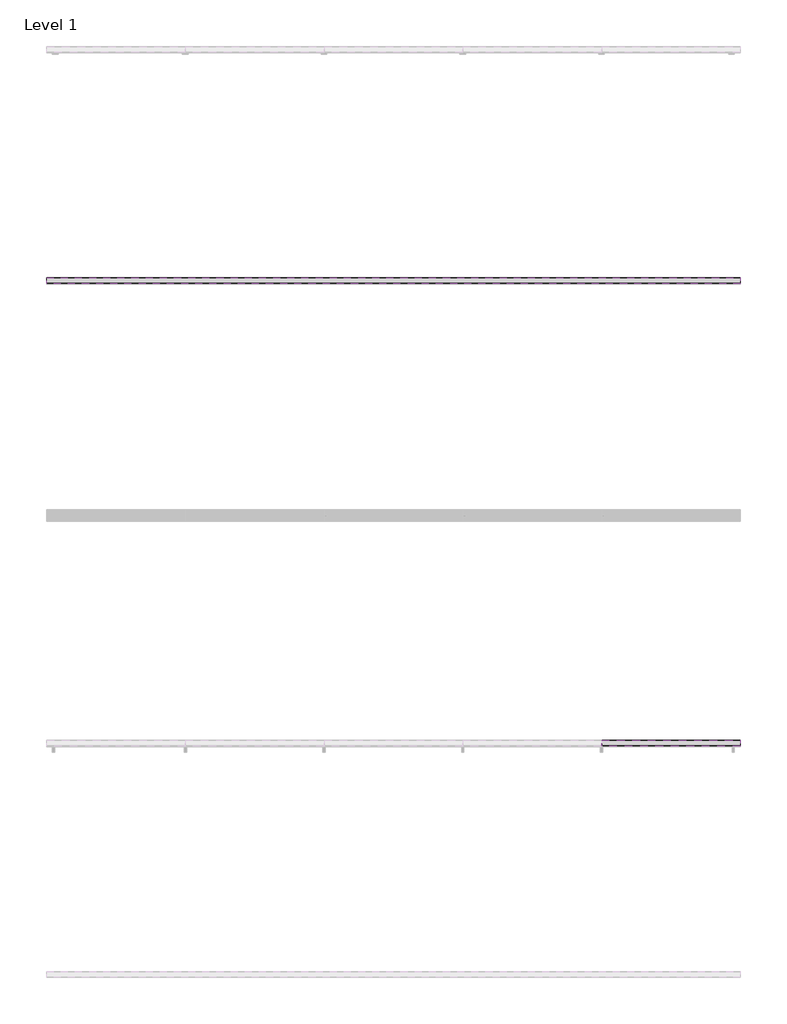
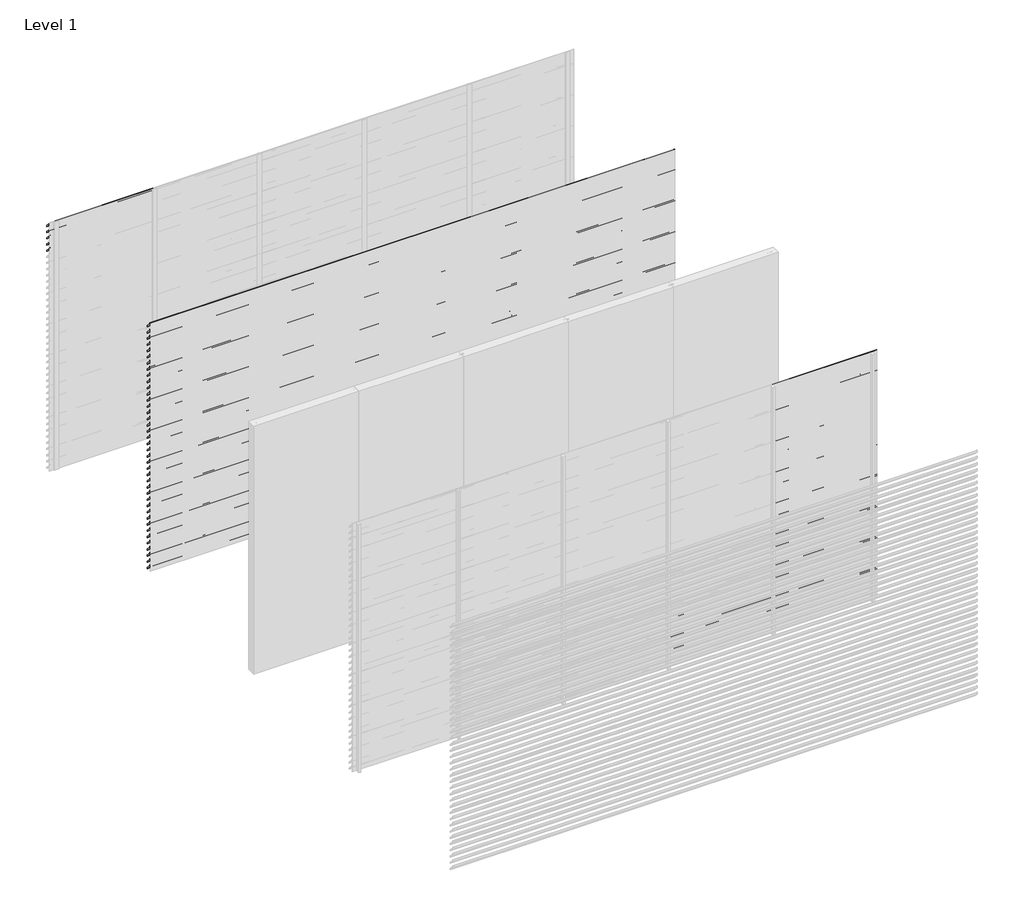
# One storey, part 9 of 11: 93 proxies.
"""IFC4 building model written with IfcOpenShell, lengths in millimetres."""

from ifc_helpers import new_model, si_unit, frame, origin, place, context, project, spatial, polyline, outline, extrude, element, save

model = new_model("IFC4")

# Units and contexts
model_context = context("Model", 3, world=origin())
ifc_project = project(units=[si_unit("LENGTHUNIT", "METRE", prefix="MILLI")], contexts=[model_context])

# Site, building, storey
site = spatial("IfcSite", under=ifc_project)
building = spatial("IfcBuilding", under=site)
storey = spatial("IfcBuildingStorey", under=building, Name="Level 1", Elevation=0.0)

# Proxies
placement = place(None, origin())
element("IfcBuildingElementProxy", 1, Name="Wall Sweeps", at=placement, inside=storey, context=model_context, shape_type="SweptSolid", body=[
    extrude(outline(polyline([(5.0, 3000.0), (5.0, 2990.7409854), (54.0, 2940.0), (54.0, 2924.0), (3.0, 2976.812046), (3.0, 3000.0), (5.0, 3000.0)])), frame((0.0, 0.0, 0.0), z_axis=(1.0, 0.0, 0.0), x_axis=(0.0, 1.0, 0.0)), (0.0, 0.0, 1.0), 1200.0),
])
element("IfcBuildingElementProxy", 2, Name="Wall Sweeps", at=placement, inside=storey, context=model_context, shape_type="SweptSolid", body=[
    extrude(outline(polyline([(5.0, 2925.0), (5.0, 2915.7409854), (54.0, 2865.0), (54.0, 2849.0), (3.0, 2901.812046), (3.0, 2925.0), (5.0, 2925.0)])), frame((0.0, 0.0, 0.0), z_axis=(1.0, 0.0, 0.0), x_axis=(0.0, 1.0, 0.0)), (0.0, 0.0, 1.0), 1200.0),
])
element("IfcBuildingElementProxy", 3, Name="Wall Sweeps", at=placement, inside=storey, context=model_context, shape_type="SweptSolid", body=[
    extrude(outline(polyline([(5.0, 2850.0), (5.0, 2840.7409854), (54.0, 2790.0), (54.0, 2774.0), (3.0, 2826.812046), (3.0, 2850.0), (5.0, 2850.0)])), frame((0.0, 0.0, 0.0), z_axis=(1.0, 0.0, 0.0), x_axis=(0.0, 1.0, 0.0)), (0.0, 0.0, 1.0), 1200.0),
])
element("IfcBuildingElementProxy", 4, Name="Wall Sweeps", at=placement, inside=storey, context=model_context, shape_type="SweptSolid", body=[
    extrude(outline(polyline([(5.0, 2775.0), (5.0, 2765.7409854), (54.0, 2715.0), (54.0, 2699.0), (3.0, 2751.812046), (3.0, 2775.0), (5.0, 2775.0)])), frame((0.0, 0.0, 0.0), z_axis=(1.0, 0.0, 0.0), x_axis=(0.0, 1.0, 0.0)), (0.0, 0.0, 1.0), 1200.0),
])
element("IfcBuildingElementProxy", 5, Name="Wall Sweeps", at=placement, inside=storey, context=model_context, shape_type="SweptSolid", body=[
    extrude(outline(polyline([(5.0, 2700.0), (5.0, 2690.7409854), (54.0, 2640.0), (54.0, 2624.0), (3.0, 2676.812046), (3.0, 2700.0), (5.0, 2700.0)])), frame((0.0, 0.0, 0.0), z_axis=(1.0, 0.0, 0.0), x_axis=(0.0, 1.0, 0.0)), (0.0, 0.0, 1.0), 1200.0),
])
element("IfcBuildingElementProxy", 6, Name="Wall Sweeps", at=placement, inside=storey, context=model_context, shape_type="SweptSolid", body=[
    extrude(outline(polyline([(-1995.0, 3000.0), (-1995.0, 2990.7409854), (-1946.0, 2940.0), (-1946.0, 2924.0), (-1997.0, 2976.812046), (-1997.0, 3000.0), (-1995.0, 3000.0)])), frame((0.0, 0.0, 0.0), z_axis=(1.0, 0.0, 0.0), x_axis=(0.0, 1.0, 0.0)), (0.0, 0.0, 1.0), 6000.0),
])
element("IfcBuildingElementProxy", 7, Name="Wall Sweeps", at=placement, inside=storey, context=model_context, shape_type="SweptSolid", body=[
    extrude(outline(polyline([(-1995.0, 2925.0), (-1995.0, 2915.7409854), (-1946.0, 2865.0), (-1946.0, 2849.0), (-1997.0, 2901.812046), (-1997.0, 2925.0), (-1995.0, 2925.0)])), frame((0.0, 0.0, 0.0), z_axis=(1.0, 0.0, 0.0), x_axis=(0.0, 1.0, 0.0)), (0.0, 0.0, 1.0), 6000.0),
])
element("IfcBuildingElementProxy", 8, Name="Wall Sweeps", at=placement, inside=storey, context=model_context, shape_type="SweptSolid", body=[
    extrude(outline(polyline([(-1995.0, 2850.0), (-1995.0, 2840.7409854), (-1946.0, 2790.0), (-1946.0, 2774.0), (-1997.0, 2826.812046), (-1997.0, 2850.0), (-1995.0, 2850.0)])), frame((0.0, 0.0, 0.0), z_axis=(1.0, 0.0, 0.0), x_axis=(0.0, 1.0, 0.0)), (0.0, 0.0, 1.0), 6000.0),
])
element("IfcBuildingElementProxy", 9, Name="Wall Sweeps", at=placement, inside=storey, context=model_context, shape_type="SweptSolid", body=[
    extrude(outline(polyline([(-1995.0, 2775.0), (-1995.0, 2765.7409854), (-1946.0, 2715.0), (-1946.0, 2699.0), (-1997.0, 2751.812046), (-1997.0, 2775.0), (-1995.0, 2775.0)])), frame((0.0, 0.0, 0.0), z_axis=(1.0, 0.0, 0.0), x_axis=(0.0, 1.0, 0.0)), (0.0, 0.0, 1.0), 6000.0),
])
element("IfcBuildingElementProxy", 10, Name="Wall Sweeps", at=placement, inside=storey, context=model_context, shape_type="SweptSolid", body=[
    extrude(outline(polyline([(-1995.0, 2700.0), (-1995.0, 2690.7409854), (-1946.0, 2640.0), (-1946.0, 2624.0), (-1997.0, 2676.812046), (-1997.0, 2700.0), (-1995.0, 2700.0)])), frame((0.0, 0.0, 0.0), z_axis=(1.0, 0.0, 0.0), x_axis=(0.0, 1.0, 0.0)), (0.0, 0.0, 1.0), 6000.0),
])
element("IfcBuildingElementProxy", 11, Name="Wall Sweeps", at=placement, inside=storey, context=model_context, shape_type="SweptSolid", body=[
    extrude(outline(polyline([(-1995.0, 2625.0), (-1995.0, 2615.7409854), (-1946.0, 2565.0), (-1946.0, 2549.0), (-1997.0, 2601.812046), (-1997.0, 2625.0), (-1995.0, 2625.0)])), frame((0.0, 0.0, 0.0), z_axis=(1.0, 0.0, 0.0), x_axis=(0.0, 1.0, 0.0)), (0.0, 0.0, 1.0), 6000.0),
])
element("IfcBuildingElementProxy", 12, Name="Wall Sweeps", at=placement, inside=storey, context=model_context, shape_type="SweptSolid", body=[
    extrude(outline(polyline([(-1995.0, 2550.0), (-1995.0, 2540.7409854), (-1946.0, 2490.0), (-1946.0, 2474.0), (-1997.0, 2526.812046), (-1997.0, 2550.0), (-1995.0, 2550.0)])), frame((0.0, 0.0, 0.0), z_axis=(1.0, 0.0, 0.0), x_axis=(0.0, 1.0, 0.0)), (0.0, 0.0, 1.0), 6000.0),
])
element("IfcBuildingElementProxy", 13, Name="Wall Sweeps", at=placement, inside=storey, context=model_context, shape_type="SweptSolid", body=[
    extrude(outline(polyline([(-1995.0, 2475.0), (-1995.0, 2465.7409854), (-1946.0, 2415.0), (-1946.0, 2399.0), (-1997.0, 2451.812046), (-1997.0, 2475.0), (-1995.0, 2475.0)])), frame((0.0, 0.0, 0.0), z_axis=(1.0, 0.0, 0.0), x_axis=(0.0, 1.0, 0.0)), (0.0, 0.0, 1.0), 6000.0),
])
element("IfcBuildingElementProxy", 14, Name="Wall Sweeps", at=placement, inside=storey, context=model_context, shape_type="SweptSolid", body=[
    extrude(outline(polyline([(-1995.0, 2400.0), (-1995.0, 2390.7409854), (-1946.0, 2340.0), (-1946.0, 2324.0), (-1997.0, 2376.812046), (-1997.0, 2400.0), (-1995.0, 2400.0)])), frame((0.0, 0.0, 0.0), z_axis=(1.0, 0.0, 0.0), x_axis=(0.0, 1.0, 0.0)), (0.0, 0.0, 1.0), 6000.0),
])
element("IfcBuildingElementProxy", 15, Name="Wall Sweeps", at=placement, inside=storey, context=model_context, shape_type="SweptSolid", body=[
    extrude(outline(polyline([(-1995.0, 2325.0), (-1995.0, 2315.7409854), (-1946.0, 2265.0), (-1946.0, 2249.0), (-1997.0, 2301.812046), (-1997.0, 2325.0), (-1995.0, 2325.0)])), frame((0.0, 0.0, 0.0), z_axis=(1.0, 0.0, 0.0), x_axis=(0.0, 1.0, 0.0)), (0.0, 0.0, 1.0), 6000.0),
])
element("IfcBuildingElementProxy", 16, Name="Wall Sweeps", at=placement, inside=storey, context=model_context, shape_type="SweptSolid", body=[
    extrude(outline(polyline([(-1995.0, 2250.0), (-1995.0, 2240.7409854), (-1946.0, 2190.0), (-1946.0, 2174.0), (-1997.0, 2226.812046), (-1997.0, 2250.0), (-1995.0, 2250.0)])), frame((0.0, 0.0, 0.0), z_axis=(1.0, 0.0, 0.0), x_axis=(0.0, 1.0, 0.0)), (0.0, 0.0, 1.0), 6000.0),
])
element("IfcBuildingElementProxy", 17, Name="Wall Sweeps", at=placement, inside=storey, context=model_context, shape_type="SweptSolid", body=[
    extrude(outline(polyline([(-1995.0, 2175.0), (-1995.0, 2165.7409854), (-1946.0, 2115.0), (-1946.0, 2099.0), (-1997.0, 2151.812046), (-1997.0, 2175.0), (-1995.0, 2175.0)])), frame((0.0, 0.0, 0.0), z_axis=(1.0, 0.0, 0.0), x_axis=(0.0, 1.0, 0.0)), (0.0, 0.0, 1.0), 6000.0),
])
element("IfcBuildingElementProxy", 18, Name="Wall Sweeps", at=placement, inside=storey, context=model_context, shape_type="SweptSolid", body=[
    extrude(outline(polyline([(-1995.0, 2100.0), (-1995.0, 2090.7409854), (-1946.0, 2040.0), (-1946.0, 2024.0), (-1997.0, 2076.812046), (-1997.0, 2100.0), (-1995.0, 2100.0)])), frame((0.0, 0.0, 0.0), z_axis=(1.0, 0.0, 0.0), x_axis=(0.0, 1.0, 0.0)), (0.0, 0.0, 1.0), 6000.0),
])
element("IfcBuildingElementProxy", 19, Name="Wall Sweeps", at=placement, inside=storey, context=model_context, shape_type="SweptSolid", body=[
    extrude(outline(polyline([(-1995.0, 2025.0), (-1995.0, 2015.7409854), (-1946.0, 1965.0), (-1946.0, 1949.0), (-1997.0, 2001.812046), (-1997.0, 2025.0), (-1995.0, 2025.0)])), frame((0.0, 0.0, 0.0), z_axis=(1.0, 0.0, 0.0), x_axis=(0.0, 1.0, 0.0)), (0.0, 0.0, 1.0), 6000.0),
])
element("IfcBuildingElementProxy", 20, Name="Wall Sweeps", at=placement, inside=storey, context=model_context, shape_type="SweptSolid", body=[
    extrude(outline(polyline([(-1995.0, 1950.0), (-1995.0, 1940.7409854), (-1946.0, 1890.0), (-1946.0, 1874.0), (-1997.0, 1926.812046), (-1997.0, 1950.0), (-1995.0, 1950.0)])), frame((0.0, 0.0, 0.0), z_axis=(1.0, 0.0, 0.0), x_axis=(0.0, 1.0, 0.0)), (0.0, 0.0, 1.0), 6000.0),
])
element("IfcBuildingElementProxy", 21, Name="Wall Sweeps", at=placement, inside=storey, context=model_context, shape_type="SweptSolid", body=[
    extrude(outline(polyline([(-1995.0, 1875.0), (-1995.0, 1865.7409854), (-1946.0, 1815.0), (-1946.0, 1799.0), (-1997.0, 1851.812046), (-1997.0, 1875.0), (-1995.0, 1875.0)])), frame((0.0, 0.0, 0.0), z_axis=(1.0, 0.0, 0.0), x_axis=(0.0, 1.0, 0.0)), (0.0, 0.0, 1.0), 6000.0),
])
element("IfcBuildingElementProxy", 22, Name="Wall Sweeps", at=placement, inside=storey, context=model_context, shape_type="SweptSolid", body=[
    extrude(outline(polyline([(-1995.0, 1800.0), (-1995.0, 1790.7409854), (-1946.0, 1740.0), (-1946.0, 1724.0), (-1997.0, 1776.812046), (-1997.0, 1800.0), (-1995.0, 1800.0)])), frame((0.0, 0.0, 0.0), z_axis=(1.0, 0.0, 0.0), x_axis=(0.0, 1.0, 0.0)), (0.0, 0.0, 1.0), 6000.0),
])
element("IfcBuildingElementProxy", 23, Name="Wall Sweeps", at=placement, inside=storey, context=model_context, shape_type="SweptSolid", body=[
    extrude(outline(polyline([(-1995.0, 1725.0), (-1995.0, 1715.7409854), (-1946.0, 1665.0), (-1946.0, 1649.0), (-1997.0, 1701.812046), (-1997.0, 1725.0), (-1995.0, 1725.0)])), frame((0.0, 0.0, 0.0), z_axis=(1.0, 0.0, 0.0), x_axis=(0.0, 1.0, 0.0)), (0.0, 0.0, 1.0), 6000.0),
])
element("IfcBuildingElementProxy", 24, Name="Wall Sweeps", at=placement, inside=storey, context=model_context, shape_type="SweptSolid", body=[
    extrude(outline(polyline([(-1995.0, 1650.0), (-1995.0, 1640.7409854), (-1946.0, 1590.0), (-1946.0, 1574.0), (-1997.0, 1626.812046), (-1997.0, 1650.0), (-1995.0, 1650.0)])), frame((0.0, 0.0, 0.0), z_axis=(1.0, 0.0, 0.0), x_axis=(0.0, 1.0, 0.0)), (0.0, 0.0, 1.0), 6000.0),
])
element("IfcBuildingElementProxy", 25, Name="Wall Sweeps", at=placement, inside=storey, context=model_context, shape_type="SweptSolid", body=[
    extrude(outline(polyline([(-1995.0, 1575.0), (-1995.0, 1565.7409854), (-1946.0, 1515.0), (-1946.0, 1499.0), (-1997.0, 1551.812046), (-1997.0, 1575.0), (-1995.0, 1575.0)])), frame((0.0, 0.0, 0.0), z_axis=(1.0, 0.0, 0.0), x_axis=(0.0, 1.0, 0.0)), (0.0, 0.0, 1.0), 6000.0),
])
element("IfcBuildingElementProxy", 26, Name="Wall Sweeps", at=placement, inside=storey, context=model_context, shape_type="SweptSolid", body=[
    extrude(outline(polyline([(-1995.0, 1500.0), (-1995.0, 1490.7409854), (-1946.0, 1440.0), (-1946.0, 1424.0), (-1997.0, 1476.812046), (-1997.0, 1500.0), (-1995.0, 1500.0)])), frame((0.0, 0.0, 0.0), z_axis=(1.0, 0.0, 0.0), x_axis=(0.0, 1.0, 0.0)), (0.0, 0.0, 1.0), 6000.0),
])
element("IfcBuildingElementProxy", 27, Name="Wall Sweeps", at=placement, inside=storey, context=model_context, shape_type="SweptSolid", body=[
    extrude(outline(polyline([(-1995.0, 1425.0), (-1995.0, 1415.7409854), (-1946.0, 1365.0), (-1946.0, 1349.0), (-1997.0, 1401.812046), (-1997.0, 1425.0), (-1995.0, 1425.0)])), frame((0.0, 0.0, 0.0), z_axis=(1.0, 0.0, 0.0), x_axis=(0.0, 1.0, 0.0)), (0.0, 0.0, 1.0), 6000.0),
])
element("IfcBuildingElementProxy", 28, Name="Wall Sweeps", at=placement, inside=storey, context=model_context, shape_type="SweptSolid", body=[
    extrude(outline(polyline([(-1995.0, 1350.0), (-1995.0, 1340.7409854), (-1946.0, 1290.0), (-1946.0, 1274.0), (-1997.0, 1326.812046), (-1997.0, 1350.0), (-1995.0, 1350.0)])), frame((0.0, 0.0, 0.0), z_axis=(1.0, 0.0, 0.0), x_axis=(0.0, 1.0, 0.0)), (0.0, 0.0, 1.0), 6000.0),
])
element("IfcBuildingElementProxy", 29, Name="Wall Sweeps", at=placement, inside=storey, context=model_context, shape_type="SweptSolid", body=[
    extrude(outline(polyline([(-1995.0, 1275.0), (-1995.0, 1265.7409854), (-1946.0, 1215.0), (-1946.0, 1199.0), (-1997.0, 1251.812046), (-1997.0, 1275.0), (-1995.0, 1275.0)])), frame((0.0, 0.0, 0.0), z_axis=(1.0, 0.0, 0.0), x_axis=(0.0, 1.0, 0.0)), (0.0, 0.0, 1.0), 6000.0),
])
element("IfcBuildingElementProxy", 30, Name="Wall Sweeps", at=placement, inside=storey, context=model_context, shape_type="SweptSolid", body=[
    extrude(outline(polyline([(-1995.0, 1200.0), (-1995.0, 1190.7409854), (-1946.0, 1140.0), (-1946.0, 1124.0), (-1997.0, 1176.812046), (-1997.0, 1200.0), (-1995.0, 1200.0)])), frame((0.0, 0.0, 0.0), z_axis=(1.0, 0.0, 0.0), x_axis=(0.0, 1.0, 0.0)), (0.0, 0.0, 1.0), 6000.0),
])
element("IfcBuildingElementProxy", 31, Name="Wall Sweeps", at=placement, inside=storey, context=model_context, shape_type="SweptSolid", body=[
    extrude(outline(polyline([(-1995.0, 1125.0), (-1995.0, 1115.7409854), (-1946.0, 1065.0), (-1946.0, 1049.0), (-1997.0, 1101.812046), (-1997.0, 1125.0), (-1995.0, 1125.0)])), frame((0.0, 0.0, 0.0), z_axis=(1.0, 0.0, 0.0), x_axis=(0.0, 1.0, 0.0)), (0.0, 0.0, 1.0), 6000.0),
])
element("IfcBuildingElementProxy", 32, Name="Wall Sweeps", at=placement, inside=storey, context=model_context, shape_type="SweptSolid", body=[
    extrude(outline(polyline([(-1995.0, 1050.0), (-1995.0, 1040.7409854), (-1946.0, 990.0), (-1946.0, 974.0), (-1997.0, 1026.812046), (-1997.0, 1050.0), (-1995.0, 1050.0)])), frame((0.0, 0.0, 0.0), z_axis=(1.0, 0.0, 0.0), x_axis=(0.0, 1.0, 0.0)), (0.0, 0.0, 1.0), 6000.0),
])
element("IfcBuildingElementProxy", 33, Name="Wall Sweeps", at=placement, inside=storey, context=model_context, shape_type="SweptSolid", body=[
    extrude(outline(polyline([(-1995.0, 975.0), (-1995.0, 965.7409854), (-1946.0, 915.0), (-1946.0, 899.0), (-1997.0, 951.812046), (-1997.0, 975.0), (-1995.0, 975.0)])), frame((0.0, 0.0, 0.0), z_axis=(1.0, 0.0, 0.0), x_axis=(0.0, 1.0, 0.0)), (0.0, 0.0, 1.0), 6000.0),
])
element("IfcBuildingElementProxy", 34, Name="Wall Sweeps", at=placement, inside=storey, context=model_context, shape_type="SweptSolid", body=[
    extrude(outline(polyline([(-1995.0, 900.0), (-1995.0, 890.7409854), (-1946.0, 840.0), (-1946.0, 824.0), (-1997.0, 876.812046), (-1997.0, 900.0), (-1995.0, 900.0)])), frame((0.0, 0.0, 0.0), z_axis=(1.0, 0.0, 0.0), x_axis=(0.0, 1.0, 0.0)), (0.0, 0.0, 1.0), 6000.0),
])
element("IfcBuildingElementProxy", 35, Name="Wall Sweeps", at=placement, inside=storey, context=model_context, shape_type="SweptSolid", body=[
    extrude(outline(polyline([(-1995.0, 825.0), (-1995.0, 815.7409854), (-1946.0, 765.0), (-1946.0, 749.0), (-1997.0, 801.812046), (-1997.0, 825.0), (-1995.0, 825.0)])), frame((0.0, 0.0, 0.0), z_axis=(1.0, 0.0, 0.0), x_axis=(0.0, 1.0, 0.0)), (0.0, 0.0, 1.0), 6000.0),
])
element("IfcBuildingElementProxy", 36, Name="Wall Sweeps", at=placement, inside=storey, context=model_context, shape_type="SweptSolid", body=[
    extrude(outline(polyline([(-1995.0, 750.0), (-1995.0, 740.7409854), (-1946.0, 690.0), (-1946.0, 674.0), (-1997.0, 726.812046), (-1997.0, 750.0), (-1995.0, 750.0)])), frame((0.0, 0.0, 0.0), z_axis=(1.0, 0.0, 0.0), x_axis=(0.0, 1.0, 0.0)), (0.0, 0.0, 1.0), 6000.0),
])
element("IfcBuildingElementProxy", 37, Name="Wall Sweeps", at=placement, inside=storey, context=model_context, shape_type="SweptSolid", body=[
    extrude(outline(polyline([(-1995.0, 675.0), (-1995.0, 665.7409854), (-1946.0, 615.0), (-1946.0, 599.0), (-1997.0, 651.812046), (-1997.0, 675.0), (-1995.0, 675.0)])), frame((0.0, 0.0, 0.0), z_axis=(1.0, 0.0, 0.0), x_axis=(0.0, 1.0, 0.0)), (0.0, 0.0, 1.0), 6000.0),
])
element("IfcBuildingElementProxy", 38, Name="Wall Sweeps", at=placement, inside=storey, context=model_context, shape_type="SweptSolid", body=[
    extrude(outline(polyline([(-1995.0, 600.0), (-1995.0, 590.7409854), (-1946.0, 540.0), (-1946.0, 524.0), (-1997.0, 576.812046), (-1997.0, 600.0), (-1995.0, 600.0)])), frame((0.0, 0.0, 0.0), z_axis=(1.0, 0.0, 0.0), x_axis=(0.0, 1.0, 0.0)), (0.0, 0.0, 1.0), 6000.0),
])
element("IfcBuildingElementProxy", 39, Name="Wall Sweeps", at=placement, inside=storey, context=model_context, shape_type="SweptSolid", body=[
    extrude(outline(polyline([(-1995.0, 525.0), (-1995.0, 515.7409854), (-1946.0, 465.0), (-1946.0, 449.0), (-1997.0, 501.812046), (-1997.0, 525.0), (-1995.0, 525.0)])), frame((0.0, 0.0, 0.0), z_axis=(1.0, 0.0, 0.0), x_axis=(0.0, 1.0, 0.0)), (0.0, 0.0, 1.0), 6000.0),
])
element("IfcBuildingElementProxy", 40, Name="Wall Sweeps", at=placement, inside=storey, context=model_context, shape_type="SweptSolid", body=[
    extrude(outline(polyline([(-1995.0, 450.0), (-1995.0, 440.7409854), (-1946.0, 390.0), (-1946.0, 374.0), (-1997.0, 426.812046), (-1997.0, 450.0), (-1995.0, 450.0)])), frame((0.0, 0.0, 0.0), z_axis=(1.0, 0.0, 0.0), x_axis=(0.0, 1.0, 0.0)), (0.0, 0.0, 1.0), 6000.0),
])
element("IfcBuildingElementProxy", 41, Name="Wall Sweeps", at=placement, inside=storey, context=model_context, shape_type="SweptSolid", body=[
    extrude(outline(polyline([(-1995.0, 375.0), (-1995.0, 365.7409854), (-1946.0, 315.0), (-1946.0, 299.0), (-1997.0, 351.812046), (-1997.0, 375.0), (-1995.0, 375.0)])), frame((0.0, 0.0, 0.0), z_axis=(1.0, 0.0, 0.0), x_axis=(0.0, 1.0, 0.0)), (0.0, 0.0, 1.0), 6000.0),
])
element("IfcBuildingElementProxy", 42, Name="Wall Sweeps", at=placement, inside=storey, context=model_context, shape_type="SweptSolid", body=[
    extrude(outline(polyline([(-1995.0, 300.0), (-1995.0, 290.7409854), (-1946.0, 240.0), (-1946.0, 224.0), (-1997.0, 276.812046), (-1997.0, 300.0), (-1995.0, 300.0)])), frame((0.0, 0.0, 0.0), z_axis=(1.0, 0.0, 0.0), x_axis=(0.0, 1.0, 0.0)), (0.0, 0.0, 1.0), 6000.0),
])
element("IfcBuildingElementProxy", 43, Name="Wall Sweeps", at=placement, inside=storey, context=model_context, shape_type="SweptSolid", body=[
    extrude(outline(polyline([(-1995.0, 225.0), (-1995.0, 215.7409854), (-1946.0, 165.0), (-1946.0, 149.0), (-1997.0, 201.812046), (-1997.0, 225.0), (-1995.0, 225.0)])), frame((0.0, 0.0, 0.0), z_axis=(1.0, 0.0, 0.0), x_axis=(0.0, 1.0, 0.0)), (0.0, 0.0, 1.0), 6000.0),
])
element("IfcBuildingElementProxy", 44, Name="Wall Sweeps", at=placement, inside=storey, context=model_context, shape_type="SweptSolid", body=[
    extrude(outline(polyline([(-1995.0, 150.0), (-1995.0, 140.7409854), (-1946.0, 90.0), (-1946.0, 74.0), (-1997.0, 126.812046), (-1997.0, 150.0), (-1995.0, 150.0)])), frame((0.0, 0.0, 0.0), z_axis=(1.0, 0.0, 0.0), x_axis=(0.0, 1.0, 0.0)), (0.0, 0.0, 1.0), 6000.0),
])
element("IfcBuildingElementProxy", 45, Name="Wall Sweeps", at=placement, inside=storey, context=model_context, shape_type="SweptSolid", body=[
    extrude(outline(polyline([(-1995.0, 75.0), (-1995.0, 65.7409854), (-1946.0, 15.0), (-1946.0, -1.0), (-1997.0, 51.812046), (-1997.0, 75.0), (-1995.0, 75.0)])), frame((0.0, 0.0, 0.0), z_axis=(1.0, 0.0, 0.0), x_axis=(0.0, 1.0, 0.0)), (0.0, 0.0, 1.0), 6000.0),
])
element("IfcBuildingElementProxy", 46, Name="Wall Sweeps", at=placement, inside=storey, context=model_context, shape_type="SweptSolid", body=[
    extrude(outline(polyline([(-5995.0, 600.0), (-5995.0, 590.7409854), (-5946.0, 540.0), (-5946.0, 524.0), (-5997.0, 576.812046), (-5997.0, 600.0), (-5995.0, 600.0)])), frame((3600.0, 0.0, 0.0), z_axis=(1.0, 0.0, 0.0), x_axis=(0.0, 1.0, 0.0)), (0.0, 0.0, 1.0), 1200.0),
])
element("IfcBuildingElementProxy", 47, Name="Wall Sweeps", at=placement, inside=storey, context=model_context, shape_type="SweptSolid", body=[
    extrude(outline(polyline([(-5995.0, 525.0), (-5995.0, 515.7409854), (-5946.0, 465.0), (-5946.0, 449.0), (-5997.0, 501.812046), (-5997.0, 525.0), (-5995.0, 525.0)])), frame((3600.0, 0.0, 0.0), z_axis=(1.0, 0.0, 0.0), x_axis=(0.0, 1.0, 0.0)), (0.0, 0.0, 1.0), 1200.0),
])
element("IfcBuildingElementProxy", 48, Name="Wall Sweeps", at=placement, inside=storey, context=model_context, shape_type="SweptSolid", body=[
    extrude(outline(polyline([(-5995.0, 450.0), (-5995.0, 440.7409854), (-5946.0, 390.0), (-5946.0, 374.0), (-5997.0, 426.812046), (-5997.0, 450.0), (-5995.0, 450.0)])), frame((3600.0, 0.0, 0.0), z_axis=(1.0, 0.0, 0.0), x_axis=(0.0, 1.0, 0.0)), (0.0, 0.0, 1.0), 1200.0),
])
element("IfcBuildingElementProxy", 49, Name="Wall Sweeps", at=placement, inside=storey, context=model_context, shape_type="SweptSolid", body=[
    extrude(outline(polyline([(-5995.0, 375.0), (-5995.0, 365.7409854), (-5946.0, 315.0), (-5946.0, 299.0), (-5997.0, 351.812046), (-5997.0, 375.0), (-5995.0, 375.0)])), frame((3600.0, 0.0, 0.0), z_axis=(1.0, 0.0, 0.0), x_axis=(0.0, 1.0, 0.0)), (0.0, 0.0, 1.0), 1200.0),
])
element("IfcBuildingElementProxy", 50, Name="Wall Sweeps", at=placement, inside=storey, context=model_context, shape_type="SweptSolid", body=[
    extrude(outline(polyline([(-5995.0, 300.0), (-5995.0, 290.7409854), (-5946.0, 240.0), (-5946.0, 224.0), (-5997.0, 276.812046), (-5997.0, 300.0), (-5995.0, 300.0)])), frame((3600.0, 0.0, 0.0), z_axis=(1.0, 0.0, 0.0), x_axis=(0.0, 1.0, 0.0)), (0.0, 0.0, 1.0), 1200.0),
])
element("IfcBuildingElementProxy", 51, Name="Wall Sweeps", at=placement, inside=storey, context=model_context, shape_type="SweptSolid", body=[
    extrude(outline(polyline([(-5995.0, 225.0), (-5995.0, 215.7409854), (-5946.0, 165.0), (-5946.0, 149.0), (-5997.0, 201.812046), (-5997.0, 225.0), (-5995.0, 225.0)])), frame((3600.0, 0.0, 0.0), z_axis=(1.0, 0.0, 0.0), x_axis=(0.0, 1.0, 0.0)), (0.0, 0.0, 1.0), 1200.0),
])
element("IfcBuildingElementProxy", 52, Name="Wall Sweeps", at=placement, inside=storey, context=model_context, shape_type="SweptSolid", body=[
    extrude(outline(polyline([(-5995.0, 150.0), (-5995.0, 140.7409854), (-5946.0, 90.0), (-5946.0, 74.0), (-5997.0, 126.812046), (-5997.0, 150.0), (-5995.0, 150.0)])), frame((3600.0, 0.0, 0.0), z_axis=(1.0, 0.0, 0.0), x_axis=(0.0, 1.0, 0.0)), (0.0, 0.0, 1.0), 1200.0),
])
element("IfcBuildingElementProxy", 53, Name="Wall Sweeps", at=placement, inside=storey, context=model_context, shape_type="SweptSolid", body=[
    extrude(outline(polyline([(-5995.0, 75.0), (-5995.0, 65.7409854), (-5946.0, 15.0), (-5946.0, -1.0), (-5997.0, 51.812046), (-5997.0, 75.0), (-5995.0, 75.0)])), frame((3600.0, 0.0, 0.0), z_axis=(1.0, 0.0, 0.0), x_axis=(0.0, 1.0, 0.0)), (0.0, 0.0, 1.0), 1200.0),
])
element("IfcBuildingElementProxy", 54, Name="Wall Sweeps", at=placement, inside=storey, context=model_context, shape_type="SweptSolid", body=[
    extrude(outline(polyline([(-5995.0, 3000.0), (-5995.0, 2990.7409854), (-5946.0, 2940.0), (-5946.0, 2924.0), (-5997.0, 2976.812046), (-5997.0, 3000.0), (-5995.0, 3000.0)])), frame((4800.0, 0.0, 0.0), z_axis=(1.0, 0.0, 0.0), x_axis=(0.0, 1.0, 0.0)), (0.0, 0.0, 1.0), 1200.0),
])
element("IfcBuildingElementProxy", 55, Name="Wall Sweeps", at=placement, inside=storey, context=model_context, shape_type="SweptSolid", body=[
    extrude(outline(polyline([(-5995.0, 2925.0), (-5995.0, 2915.7409854), (-5946.0, 2865.0), (-5946.0, 2849.0), (-5997.0, 2901.812046), (-5997.0, 2925.0), (-5995.0, 2925.0)])), frame((4800.0, 0.0, 0.0), z_axis=(1.0, 0.0, 0.0), x_axis=(0.0, 1.0, 0.0)), (0.0, 0.0, 1.0), 1200.0),
])
element("IfcBuildingElementProxy", 56, Name="Wall Sweeps", at=placement, inside=storey, context=model_context, shape_type="SweptSolid", body=[
    extrude(outline(polyline([(-5995.0, 2850.0), (-5995.0, 2840.7409854), (-5946.0, 2790.0), (-5946.0, 2774.0), (-5997.0, 2826.812046), (-5997.0, 2850.0), (-5995.0, 2850.0)])), frame((4800.0, 0.0, 0.0), z_axis=(1.0, 0.0, 0.0), x_axis=(0.0, 1.0, 0.0)), (0.0, 0.0, 1.0), 1200.0),
])
element("IfcBuildingElementProxy", 57, Name="Wall Sweeps", at=placement, inside=storey, context=model_context, shape_type="SweptSolid", body=[
    extrude(outline(polyline([(-5995.0, 2775.0), (-5995.0, 2765.7409854), (-5946.0, 2715.0), (-5946.0, 2699.0), (-5997.0, 2751.812046), (-5997.0, 2775.0), (-5995.0, 2775.0)])), frame((4800.0, 0.0, 0.0), z_axis=(1.0, 0.0, 0.0), x_axis=(0.0, 1.0, 0.0)), (0.0, 0.0, 1.0), 1200.0),
])
element("IfcBuildingElementProxy", 58, Name="Wall Sweeps", at=placement, inside=storey, context=model_context, shape_type="SweptSolid", body=[
    extrude(outline(polyline([(-5995.0, 2700.0), (-5995.0, 2690.7409854), (-5946.0, 2640.0), (-5946.0, 2624.0), (-5997.0, 2676.812046), (-5997.0, 2700.0), (-5995.0, 2700.0)])), frame((4800.0, 0.0, 0.0), z_axis=(1.0, 0.0, 0.0), x_axis=(0.0, 1.0, 0.0)), (0.0, 0.0, 1.0), 1200.0),
])
element("IfcBuildingElementProxy", 59, Name="Wall Sweeps", at=placement, inside=storey, context=model_context, shape_type="SweptSolid", body=[
    extrude(outline(polyline([(-5995.0, 2625.0), (-5995.0, 2615.7409854), (-5946.0, 2565.0), (-5946.0, 2549.0), (-5997.0, 2601.812046), (-5997.0, 2625.0), (-5995.0, 2625.0)])), frame((4800.0, 0.0, 0.0), z_axis=(1.0, 0.0, 0.0), x_axis=(0.0, 1.0, 0.0)), (0.0, 0.0, 1.0), 1200.0),
])
element("IfcBuildingElementProxy", 60, Name="Wall Sweeps", at=placement, inside=storey, context=model_context, shape_type="SweptSolid", body=[
    extrude(outline(polyline([(-5995.0, 2550.0), (-5995.0, 2540.7409854), (-5946.0, 2490.0), (-5946.0, 2474.0), (-5997.0, 2526.812046), (-5997.0, 2550.0), (-5995.0, 2550.0)])), frame((4800.0, 0.0, 0.0), z_axis=(1.0, 0.0, 0.0), x_axis=(0.0, 1.0, 0.0)), (0.0, 0.0, 1.0), 1200.0),
])
element("IfcBuildingElementProxy", 61, Name="Wall Sweeps", at=placement, inside=storey, context=model_context, shape_type="SweptSolid", body=[
    extrude(outline(polyline([(-5995.0, 2475.0), (-5995.0, 2465.7409854), (-5946.0, 2415.0), (-5946.0, 2399.0), (-5997.0, 2451.812046), (-5997.0, 2475.0), (-5995.0, 2475.0)])), frame((4800.0, 0.0, 0.0), z_axis=(1.0, 0.0, 0.0), x_axis=(0.0, 1.0, 0.0)), (0.0, 0.0, 1.0), 1200.0),
])
element("IfcBuildingElementProxy", 62, Name="Wall Sweeps", at=placement, inside=storey, context=model_context, shape_type="SweptSolid", body=[
    extrude(outline(polyline([(-5995.0, 2400.0), (-5995.0, 2390.7409854), (-5946.0, 2340.0), (-5946.0, 2324.0), (-5997.0, 2376.812046), (-5997.0, 2400.0), (-5995.0, 2400.0)])), frame((4800.0, 0.0, 0.0), z_axis=(1.0, 0.0, 0.0), x_axis=(0.0, 1.0, 0.0)), (0.0, 0.0, 1.0), 1200.0),
])
element("IfcBuildingElementProxy", 63, Name="Wall Sweeps", at=placement, inside=storey, context=model_context, shape_type="SweptSolid", body=[
    extrude(outline(polyline([(-5995.0, 2325.0), (-5995.0, 2315.7409854), (-5946.0, 2265.0), (-5946.0, 2249.0), (-5997.0, 2301.812046), (-5997.0, 2325.0), (-5995.0, 2325.0)])), frame((4800.0, 0.0, 0.0), z_axis=(1.0, 0.0, 0.0), x_axis=(0.0, 1.0, 0.0)), (0.0, 0.0, 1.0), 1200.0),
])
element("IfcBuildingElementProxy", 64, Name="Wall Sweeps", at=placement, inside=storey, context=model_context, shape_type="SweptSolid", body=[
    extrude(outline(polyline([(-5995.0, 2250.0), (-5995.0, 2240.7409854), (-5946.0, 2190.0), (-5946.0, 2174.0), (-5997.0, 2226.812046), (-5997.0, 2250.0), (-5995.0, 2250.0)])), frame((4800.0, 0.0, 0.0), z_axis=(1.0, 0.0, 0.0), x_axis=(0.0, 1.0, 0.0)), (0.0, 0.0, 1.0), 1200.0),
])
element("IfcBuildingElementProxy", 65, Name="Wall Sweeps", at=placement, inside=storey, context=model_context, shape_type="SweptSolid", body=[
    extrude(outline(polyline([(-5995.0, 2175.0), (-5995.0, 2165.7409854), (-5946.0, 2115.0), (-5946.0, 2099.0), (-5997.0, 2151.812046), (-5997.0, 2175.0), (-5995.0, 2175.0)])), frame((4800.0, 0.0, 0.0), z_axis=(1.0, 0.0, 0.0), x_axis=(0.0, 1.0, 0.0)), (0.0, 0.0, 1.0), 1200.0),
])
element("IfcBuildingElementProxy", 66, Name="Wall Sweeps", at=placement, inside=storey, context=model_context, shape_type="SweptSolid", body=[
    extrude(outline(polyline([(-5995.0, 2100.0), (-5995.0, 2090.7409854), (-5946.0, 2040.0), (-5946.0, 2024.0), (-5997.0, 2076.812046), (-5997.0, 2100.0), (-5995.0, 2100.0)])), frame((4800.0, 0.0, 0.0), z_axis=(1.0, 0.0, 0.0), x_axis=(0.0, 1.0, 0.0)), (0.0, 0.0, 1.0), 1200.0),
])
element("IfcBuildingElementProxy", 67, Name="Wall Sweeps", at=placement, inside=storey, context=model_context, shape_type="SweptSolid", body=[
    extrude(outline(polyline([(-5995.0, 2025.0), (-5995.0, 2015.7409854), (-5946.0, 1965.0), (-5946.0, 1949.0), (-5997.0, 2001.812046), (-5997.0, 2025.0), (-5995.0, 2025.0)])), frame((4800.0, 0.0, 0.0), z_axis=(1.0, 0.0, 0.0), x_axis=(0.0, 1.0, 0.0)), (0.0, 0.0, 1.0), 1200.0),
])
element("IfcBuildingElementProxy", 68, Name="Wall Sweeps", at=placement, inside=storey, context=model_context, shape_type="SweptSolid", body=[
    extrude(outline(polyline([(-5995.0, 1950.0), (-5995.0, 1940.7409854), (-5946.0, 1890.0), (-5946.0, 1874.0), (-5997.0, 1926.812046), (-5997.0, 1950.0), (-5995.0, 1950.0)])), frame((4800.0, 0.0, 0.0), z_axis=(1.0, 0.0, 0.0), x_axis=(0.0, 1.0, 0.0)), (0.0, 0.0, 1.0), 1200.0),
])
element("IfcBuildingElementProxy", 69, Name="Wall Sweeps", at=placement, inside=storey, context=model_context, shape_type="SweptSolid", body=[
    extrude(outline(polyline([(-5995.0, 1875.0), (-5995.0, 1865.7409854), (-5946.0, 1815.0), (-5946.0, 1799.0), (-5997.0, 1851.812046), (-5997.0, 1875.0), (-5995.0, 1875.0)])), frame((4800.0, 0.0, 0.0), z_axis=(1.0, 0.0, 0.0), x_axis=(0.0, 1.0, 0.0)), (0.0, 0.0, 1.0), 1200.0),
])
element("IfcBuildingElementProxy", 70, Name="Wall Sweeps", at=placement, inside=storey, context=model_context, shape_type="SweptSolid", body=[
    extrude(outline(polyline([(-5995.0, 1800.0), (-5995.0, 1790.7409854), (-5946.0, 1740.0), (-5946.0, 1724.0), (-5997.0, 1776.812046), (-5997.0, 1800.0), (-5995.0, 1800.0)])), frame((4800.0, 0.0, 0.0), z_axis=(1.0, 0.0, 0.0), x_axis=(0.0, 1.0, 0.0)), (0.0, 0.0, 1.0), 1200.0),
])
element("IfcBuildingElementProxy", 71, Name="Wall Sweeps", at=placement, inside=storey, context=model_context, shape_type="SweptSolid", body=[
    extrude(outline(polyline([(-5995.0, 1725.0), (-5995.0, 1715.7409854), (-5946.0, 1665.0), (-5946.0, 1649.0), (-5997.0, 1701.812046), (-5997.0, 1725.0), (-5995.0, 1725.0)])), frame((4800.0, 0.0, 0.0), z_axis=(1.0, 0.0, 0.0), x_axis=(0.0, 1.0, 0.0)), (0.0, 0.0, 1.0), 1200.0),
])
element("IfcBuildingElementProxy", 72, Name="Wall Sweeps", at=placement, inside=storey, context=model_context, shape_type="SweptSolid", body=[
    extrude(outline(polyline([(-5995.0, 1650.0), (-5995.0, 1640.7409854), (-5946.0, 1590.0), (-5946.0, 1574.0), (-5997.0, 1626.812046), (-5997.0, 1650.0), (-5995.0, 1650.0)])), frame((4800.0, 0.0, 0.0), z_axis=(1.0, 0.0, 0.0), x_axis=(0.0, 1.0, 0.0)), (0.0, 0.0, 1.0), 1200.0),
])
element("IfcBuildingElementProxy", 73, Name="Wall Sweeps", at=placement, inside=storey, context=model_context, shape_type="SweptSolid", body=[
    extrude(outline(polyline([(-5995.0, 1575.0), (-5995.0, 1565.7409854), (-5946.0, 1515.0), (-5946.0, 1499.0), (-5997.0, 1551.812046), (-5997.0, 1575.0), (-5995.0, 1575.0)])), frame((4800.0, 0.0, 0.0), z_axis=(1.0, 0.0, 0.0), x_axis=(0.0, 1.0, 0.0)), (0.0, 0.0, 1.0), 1200.0),
])
element("IfcBuildingElementProxy", 74, Name="Wall Sweeps", at=placement, inside=storey, context=model_context, shape_type="SweptSolid", body=[
    extrude(outline(polyline([(-5995.0, 1500.0), (-5995.0, 1490.7409854), (-5946.0, 1440.0), (-5946.0, 1424.0), (-5997.0, 1476.812046), (-5997.0, 1500.0), (-5995.0, 1500.0)])), frame((4800.0, 0.0, 0.0), z_axis=(1.0, 0.0, 0.0), x_axis=(0.0, 1.0, 0.0)), (0.0, 0.0, 1.0), 1200.0),
])
element("IfcBuildingElementProxy", 75, Name="Wall Sweeps", at=placement, inside=storey, context=model_context, shape_type="SweptSolid", body=[
    extrude(outline(polyline([(-5995.0, 1425.0), (-5995.0, 1415.7409854), (-5946.0, 1365.0), (-5946.0, 1349.0), (-5997.0, 1401.812046), (-5997.0, 1425.0), (-5995.0, 1425.0)])), frame((4800.0, 0.0, 0.0), z_axis=(1.0, 0.0, 0.0), x_axis=(0.0, 1.0, 0.0)), (0.0, 0.0, 1.0), 1200.0),
])
element("IfcBuildingElementProxy", 76, Name="Wall Sweeps", at=placement, inside=storey, context=model_context, shape_type="SweptSolid", body=[
    extrude(outline(polyline([(-5995.0, 1350.0), (-5995.0, 1340.7409854), (-5946.0, 1290.0), (-5946.0, 1274.0), (-5997.0, 1326.812046), (-5997.0, 1350.0), (-5995.0, 1350.0)])), frame((4800.0, 0.0, 0.0), z_axis=(1.0, 0.0, 0.0), x_axis=(0.0, 1.0, 0.0)), (0.0, 0.0, 1.0), 1200.0),
])
element("IfcBuildingElementProxy", 77, Name="Wall Sweeps", at=placement, inside=storey, context=model_context, shape_type="SweptSolid", body=[
    extrude(outline(polyline([(-5995.0, 1275.0), (-5995.0, 1265.7409854), (-5946.0, 1215.0), (-5946.0, 1199.0), (-5997.0, 1251.812046), (-5997.0, 1275.0), (-5995.0, 1275.0)])), frame((4800.0, 0.0, 0.0), z_axis=(1.0, 0.0, 0.0), x_axis=(0.0, 1.0, 0.0)), (0.0, 0.0, 1.0), 1200.0),
])
element("IfcBuildingElementProxy", 78, Name="Wall Sweeps", at=placement, inside=storey, context=model_context, shape_type="SweptSolid", body=[
    extrude(outline(polyline([(-5995.0, 1200.0), (-5995.0, 1190.7409854), (-5946.0, 1140.0), (-5946.0, 1124.0), (-5997.0, 1176.812046), (-5997.0, 1200.0), (-5995.0, 1200.0)])), frame((4800.0, 0.0, 0.0), z_axis=(1.0, 0.0, 0.0), x_axis=(0.0, 1.0, 0.0)), (0.0, 0.0, 1.0), 1200.0),
])
element("IfcBuildingElementProxy", 79, Name="Wall Sweeps", at=placement, inside=storey, context=model_context, shape_type="SweptSolid", body=[
    extrude(outline(polyline([(-5995.0, 1125.0), (-5995.0, 1115.7409854), (-5946.0, 1065.0), (-5946.0, 1049.0), (-5997.0, 1101.812046), (-5997.0, 1125.0), (-5995.0, 1125.0)])), frame((4800.0, 0.0, 0.0), z_axis=(1.0, 0.0, 0.0), x_axis=(0.0, 1.0, 0.0)), (0.0, 0.0, 1.0), 1200.0),
])
element("IfcBuildingElementProxy", 80, Name="Wall Sweeps", at=placement, inside=storey, context=model_context, shape_type="SweptSolid", body=[
    extrude(outline(polyline([(-5995.0, 1050.0), (-5995.0, 1040.7409854), (-5946.0, 990.0), (-5946.0, 974.0), (-5997.0, 1026.812046), (-5997.0, 1050.0), (-5995.0, 1050.0)])), frame((4800.0, 0.0, 0.0), z_axis=(1.0, 0.0, 0.0), x_axis=(0.0, 1.0, 0.0)), (0.0, 0.0, 1.0), 1200.0),
])
element("IfcBuildingElementProxy", 81, Name="Wall Sweeps", at=placement, inside=storey, context=model_context, shape_type="SweptSolid", body=[
    extrude(outline(polyline([(-5995.0, 975.0), (-5995.0, 965.7409854), (-5946.0, 915.0), (-5946.0, 899.0), (-5997.0, 951.812046), (-5997.0, 975.0), (-5995.0, 975.0)])), frame((4800.0, 0.0, 0.0), z_axis=(1.0, 0.0, 0.0), x_axis=(0.0, 1.0, 0.0)), (0.0, 0.0, 1.0), 1200.0),
])
element("IfcBuildingElementProxy", 82, Name="Wall Sweeps", at=placement, inside=storey, context=model_context, shape_type="SweptSolid", body=[
    extrude(outline(polyline([(-5995.0, 900.0), (-5995.0, 890.7409854), (-5946.0, 840.0), (-5946.0, 824.0), (-5997.0, 876.812046), (-5997.0, 900.0), (-5995.0, 900.0)])), frame((4800.0, 0.0, 0.0), z_axis=(1.0, 0.0, 0.0), x_axis=(0.0, 1.0, 0.0)), (0.0, 0.0, 1.0), 1200.0),
])
element("IfcBuildingElementProxy", 83, Name="Wall Sweeps", at=placement, inside=storey, context=model_context, shape_type="SweptSolid", body=[
    extrude(outline(polyline([(-5995.0, 825.0), (-5995.0, 815.7409854), (-5946.0, 765.0), (-5946.0, 749.0), (-5997.0, 801.812046), (-5997.0, 825.0), (-5995.0, 825.0)])), frame((4800.0, 0.0, 0.0), z_axis=(1.0, 0.0, 0.0), x_axis=(0.0, 1.0, 0.0)), (0.0, 0.0, 1.0), 1200.0),
])
element("IfcBuildingElementProxy", 84, Name="Wall Sweeps", at=placement, inside=storey, context=model_context, shape_type="SweptSolid", body=[
    extrude(outline(polyline([(-5995.0, 750.0), (-5995.0, 740.7409854), (-5946.0, 690.0), (-5946.0, 674.0), (-5997.0, 726.812046), (-5997.0, 750.0), (-5995.0, 750.0)])), frame((4800.0, 0.0, 0.0), z_axis=(1.0, 0.0, 0.0), x_axis=(0.0, 1.0, 0.0)), (0.0, 0.0, 1.0), 1200.0),
])
element("IfcBuildingElementProxy", 85, Name="Wall Sweeps", at=placement, inside=storey, context=model_context, shape_type="SweptSolid", body=[
    extrude(outline(polyline([(-5995.0, 675.0), (-5995.0, 665.7409854), (-5946.0, 615.0), (-5946.0, 599.0), (-5997.0, 651.812046), (-5997.0, 675.0), (-5995.0, 675.0)])), frame((4800.0, 0.0, 0.0), z_axis=(1.0, 0.0, 0.0), x_axis=(0.0, 1.0, 0.0)), (0.0, 0.0, 1.0), 1200.0),
])
element("IfcBuildingElementProxy", 86, Name="Wall Sweeps", at=placement, inside=storey, context=model_context, shape_type="SweptSolid", body=[
    extrude(outline(polyline([(-5995.0, 600.0), (-5995.0, 590.7409854), (-5946.0, 540.0), (-5946.0, 524.0), (-5997.0, 576.812046), (-5997.0, 600.0), (-5995.0, 600.0)])), frame((4800.0, 0.0, 0.0), z_axis=(1.0, 0.0, 0.0), x_axis=(0.0, 1.0, 0.0)), (0.0, 0.0, 1.0), 1200.0),
])
element("IfcBuildingElementProxy", 87, Name="Wall Sweeps", at=placement, inside=storey, context=model_context, shape_type="SweptSolid", body=[
    extrude(outline(polyline([(-5995.0, 525.0), (-5995.0, 515.7409854), (-5946.0, 465.0), (-5946.0, 449.0), (-5997.0, 501.812046), (-5997.0, 525.0), (-5995.0, 525.0)])), frame((4800.0, 0.0, 0.0), z_axis=(1.0, 0.0, 0.0), x_axis=(0.0, 1.0, 0.0)), (0.0, 0.0, 1.0), 1200.0),
])
element("IfcBuildingElementProxy", 88, Name="Wall Sweeps", at=placement, inside=storey, context=model_context, shape_type="SweptSolid", body=[
    extrude(outline(polyline([(-5995.0, 450.0), (-5995.0, 440.7409854), (-5946.0, 390.0), (-5946.0, 374.0), (-5997.0, 426.812046), (-5997.0, 450.0), (-5995.0, 450.0)])), frame((4800.0, 0.0, 0.0), z_axis=(1.0, 0.0, 0.0), x_axis=(0.0, 1.0, 0.0)), (0.0, 0.0, 1.0), 1200.0),
])
element("IfcBuildingElementProxy", 89, Name="Wall Sweeps", at=placement, inside=storey, context=model_context, shape_type="SweptSolid", body=[
    extrude(outline(polyline([(-5995.0, 375.0), (-5995.0, 365.7409854), (-5946.0, 315.0), (-5946.0, 299.0), (-5997.0, 351.812046), (-5997.0, 375.0), (-5995.0, 375.0)])), frame((4800.0, 0.0, 0.0), z_axis=(1.0, 0.0, 0.0), x_axis=(0.0, 1.0, 0.0)), (0.0, 0.0, 1.0), 1200.0),
])
element("IfcBuildingElementProxy", 90, Name="Wall Sweeps", at=placement, inside=storey, context=model_context, shape_type="SweptSolid", body=[
    extrude(outline(polyline([(-5995.0, 300.0), (-5995.0, 290.7409854), (-5946.0, 240.0), (-5946.0, 224.0), (-5997.0, 276.812046), (-5997.0, 300.0), (-5995.0, 300.0)])), frame((4800.0, 0.0, 0.0), z_axis=(1.0, 0.0, 0.0), x_axis=(0.0, 1.0, 0.0)), (0.0, 0.0, 1.0), 1200.0),
])
element("IfcBuildingElementProxy", 91, Name="Wall Sweeps", at=placement, inside=storey, context=model_context, shape_type="SweptSolid", body=[
    extrude(outline(polyline([(-5995.0, 225.0), (-5995.0, 215.7409854), (-5946.0, 165.0), (-5946.0, 149.0), (-5997.0, 201.812046), (-5997.0, 225.0), (-5995.0, 225.0)])), frame((4800.0, 0.0, 0.0), z_axis=(1.0, 0.0, 0.0), x_axis=(0.0, 1.0, 0.0)), (0.0, 0.0, 1.0), 1200.0),
])
element("IfcBuildingElementProxy", 92, Name="Wall Sweeps", at=placement, inside=storey, context=model_context, shape_type="SweptSolid", body=[
    extrude(outline(polyline([(-5995.0, 150.0), (-5995.0, 140.7409854), (-5946.0, 90.0), (-5946.0, 74.0), (-5997.0, 126.812046), (-5997.0, 150.0), (-5995.0, 150.0)])), frame((4800.0, 0.0, 0.0), z_axis=(1.0, 0.0, 0.0), x_axis=(0.0, 1.0, 0.0)), (0.0, 0.0, 1.0), 1200.0),
])
element("IfcBuildingElementProxy", 93, Name="Wall Sweeps", at=placement, inside=storey, context=model_context, shape_type="SweptSolid", body=[
    extrude(outline(polyline([(-5995.0, 75.0), (-5995.0, 65.7409854), (-5946.0, 15.0), (-5946.0, -1.0), (-5997.0, 51.812046), (-5997.0, 75.0), (-5995.0, 75.0)])), frame((4800.0, 0.0, 0.0), z_axis=(1.0, 0.0, 0.0), x_axis=(0.0, 1.0, 0.0)), (0.0, 0.0, 1.0), 1200.0),
])

save(model, "model.ifc")
